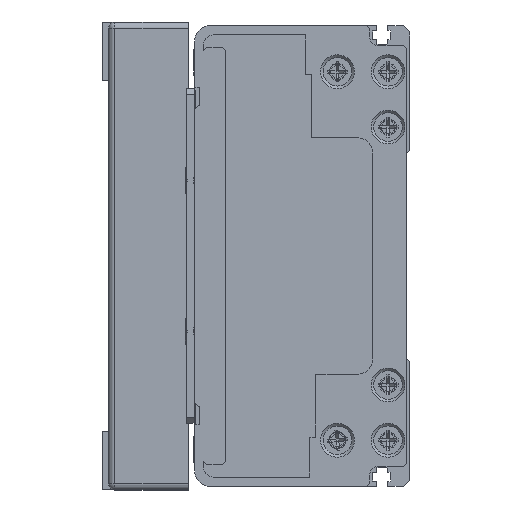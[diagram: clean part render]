
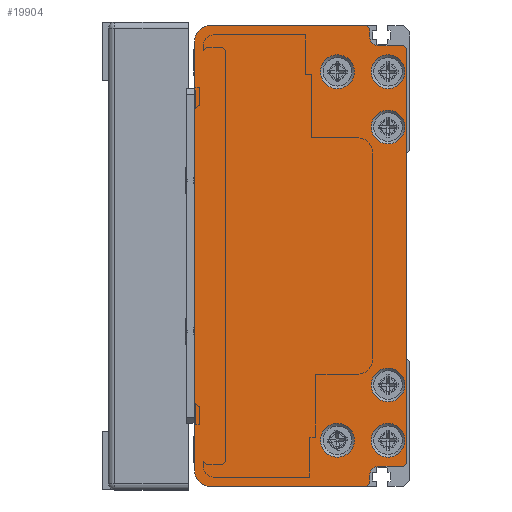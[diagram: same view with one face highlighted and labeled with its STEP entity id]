
A CAD part, left-side view. The second image highlights one B-rep face of the part: STEP entity #19904.
In plain terms, the highlighted planar face has unit normal (-1, 0, 0) as drawn and (0, 0, -1) by its records, which use the part's own axes.
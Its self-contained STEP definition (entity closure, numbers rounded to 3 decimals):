
#934=LINE('',#28802,#2599);
#935=LINE('',#28806,#2600);
#936=LINE('',#28808,#2601);
#937=LINE('',#28810,#2602);
#938=LINE('',#28814,#2603);
#939=LINE('',#28816,#2604);
#940=LINE('',#28818,#2605);
#941=LINE('',#28820,#2606);
#942=LINE('',#28822,#2607);
#943=LINE('',#28826,#2608);
#944=LINE('',#28828,#2609);
#945=LINE('',#28830,#2610);
#2599=VECTOR('',#23391,140.);
#2600=VECTOR('',#23394,51.);
#2601=VECTOR('',#23395,1.414);
#2602=VECTOR('',#23396,2.5);
#2603=VECTOR('',#23399,8.);
#2604=VECTOR('',#23400,1.414);
#2605=VECTOR('',#23401,135.);
#2606=VECTOR('',#23402,1.414);
#2607=VECTOR('',#23403,8.);
#2608=VECTOR('',#23406,2.5);
#2609=VECTOR('',#23407,1.414);
#2610=VECTOR('',#23408,51.);
#4217=PLANE('',#21278);
#4848=FACE_BOUND('',#6704,.T.);
#4849=FACE_BOUND('',#6705,.T.);
#4850=FACE_BOUND('',#6706,.T.);
#4851=FACE_BOUND('',#6707,.T.);
#4852=FACE_BOUND('',#6708,.T.);
#4853=FACE_BOUND('',#6709,.T.);
#5415=FACE_OUTER_BOUND('',#6703,.T.);
#6703=EDGE_LOOP('',(#13983,#13984,#13985,#13986,#13987,#13988,#13989,#13990,
#13991,#13992,#13993,#13994,#13995,#13996,#13997,#13998));
#6704=EDGE_LOOP('',(#13999));
#6705=EDGE_LOOP('',(#14000));
#6706=EDGE_LOOP('',(#14001));
#6707=EDGE_LOOP('',(#14002));
#6708=EDGE_LOOP('',(#14003));
#6709=EDGE_LOOP('',(#14004));
#8221=CIRCLE('',#21279,5.);
#8222=CIRCLE('',#21280,3.);
#8223=CIRCLE('',#21281,3.);
#8224=CIRCLE('',#21282,5.);
#8225=CIRCLE('',#21283,5.5);
#8226=CIRCLE('',#21284,5.5);
#8227=CIRCLE('',#21285,5.5);
#8228=CIRCLE('',#21286,5.5);
#8229=CIRCLE('',#21287,5.5);
#8230=CIRCLE('',#21288,5.5);
#8917=VERTEX_POINT('',#28800);
#8918=VERTEX_POINT('',#28801);
#8919=VERTEX_POINT('',#28803);
#8920=VERTEX_POINT('',#28805);
#8921=VERTEX_POINT('',#28807);
#8922=VERTEX_POINT('',#28809);
#8923=VERTEX_POINT('',#28811);
#8924=VERTEX_POINT('',#28813);
#8925=VERTEX_POINT('',#28815);
#8926=VERTEX_POINT('',#28817);
#8927=VERTEX_POINT('',#28819);
#8928=VERTEX_POINT('',#28821);
#8929=VERTEX_POINT('',#28823);
#8930=VERTEX_POINT('',#28825);
#8931=VERTEX_POINT('',#28827);
#8932=VERTEX_POINT('',#28829);
#8933=VERTEX_POINT('',#28832);
#8934=VERTEX_POINT('',#28834);
#8935=VERTEX_POINT('',#28836);
#8936=VERTEX_POINT('',#28838);
#8937=VERTEX_POINT('',#28840);
#8938=VERTEX_POINT('',#28842);
#10957=EDGE_CURVE('',#8917,#8918,#934,.T.);
#10958=EDGE_CURVE('',#8918,#8919,#8221,.T.);
#10959=EDGE_CURVE('',#8919,#8920,#935,.T.);
#10960=EDGE_CURVE('',#8920,#8921,#936,.T.);
#10961=EDGE_CURVE('',#8921,#8922,#937,.T.);
#10962=EDGE_CURVE('',#8922,#8923,#8222,.T.);
#10963=EDGE_CURVE('',#8923,#8924,#938,.T.);
#10964=EDGE_CURVE('',#8924,#8925,#939,.T.);
#10965=EDGE_CURVE('',#8925,#8926,#940,.T.);
#10966=EDGE_CURVE('',#8926,#8927,#941,.T.);
#10967=EDGE_CURVE('',#8927,#8928,#942,.T.);
#10968=EDGE_CURVE('',#8928,#8929,#8223,.T.);
#10969=EDGE_CURVE('',#8929,#8930,#943,.T.);
#10970=EDGE_CURVE('',#8930,#8931,#944,.T.);
#10971=EDGE_CURVE('',#8931,#8932,#945,.T.);
#10972=EDGE_CURVE('',#8932,#8917,#8224,.T.);
#10973=EDGE_CURVE('',#8933,#8933,#8225,.T.);
#10974=EDGE_CURVE('',#8934,#8934,#8226,.T.);
#10975=EDGE_CURVE('',#8935,#8935,#8227,.T.);
#10976=EDGE_CURVE('',#8936,#8936,#8228,.T.);
#10977=EDGE_CURVE('',#8937,#8937,#8229,.T.);
#10978=EDGE_CURVE('',#8938,#8938,#8230,.T.);
#13983=ORIENTED_EDGE('',*,*,#10957,.T.);
#13984=ORIENTED_EDGE('',*,*,#10958,.T.);
#13985=ORIENTED_EDGE('',*,*,#10959,.T.);
#13986=ORIENTED_EDGE('',*,*,#10960,.T.);
#13987=ORIENTED_EDGE('',*,*,#10961,.T.);
#13988=ORIENTED_EDGE('',*,*,#10962,.T.);
#13989=ORIENTED_EDGE('',*,*,#10963,.T.);
#13990=ORIENTED_EDGE('',*,*,#10964,.T.);
#13991=ORIENTED_EDGE('',*,*,#10965,.T.);
#13992=ORIENTED_EDGE('',*,*,#10966,.T.);
#13993=ORIENTED_EDGE('',*,*,#10967,.T.);
#13994=ORIENTED_EDGE('',*,*,#10968,.T.);
#13995=ORIENTED_EDGE('',*,*,#10969,.T.);
#13996=ORIENTED_EDGE('',*,*,#10970,.T.);
#13997=ORIENTED_EDGE('',*,*,#10971,.T.);
#13998=ORIENTED_EDGE('',*,*,#10972,.T.);
#13999=ORIENTED_EDGE('',*,*,#10973,.T.);
#14000=ORIENTED_EDGE('',*,*,#10974,.T.);
#14001=ORIENTED_EDGE('',*,*,#10975,.T.);
#14002=ORIENTED_EDGE('',*,*,#10976,.T.);
#14003=ORIENTED_EDGE('',*,*,#10977,.T.);
#14004=ORIENTED_EDGE('',*,*,#10978,.T.);
#19904=ADVANCED_FACE('',(#5415,#4848,#4849,#4850,#4851,#4852,#4853),#4217,
 .F.);
#21278=AXIS2_PLACEMENT_3D('',#28799,#23389,#23390);
#21279=AXIS2_PLACEMENT_3D('',#28804,#23392,#23393);
#21280=AXIS2_PLACEMENT_3D('',#28812,#23397,#23398);
#21281=AXIS2_PLACEMENT_3D('',#28824,#23404,#23405);
#21282=AXIS2_PLACEMENT_3D('',#28831,#23409,#23410);
#21283=AXIS2_PLACEMENT_3D('',#28833,#23411,#23412);
#21284=AXIS2_PLACEMENT_3D('',#28835,#23413,#23414);
#21285=AXIS2_PLACEMENT_3D('',#28837,#23415,#23416);
#21286=AXIS2_PLACEMENT_3D('',#28839,#23417,#23418);
#21287=AXIS2_PLACEMENT_3D('',#28841,#23419,#23420);
#21288=AXIS2_PLACEMENT_3D('',#28843,#23421,#23422);
#23389=DIRECTION('center_axis',(0.,0.,
1.));
#23390=DIRECTION('ref_axis',(1.,0.,0.));
#23391=DIRECTION('',(1.,0.,0.));
#23392=DIRECTION('center_axis',(0.,0.,
-1.));
#23393=DIRECTION('ref_axis',(-1.,0.,0.));
#23394=DIRECTION('',(0.,-1.,0.));
#23395=DIRECTION('',(-0.707,-0.707,0.));
#23396=DIRECTION('',(-1.,0.,0.));
#23397=DIRECTION('center_axis',(0.,0.,
1.));
#23398=DIRECTION('ref_axis',(0.,1.,0.));
#23399=DIRECTION('',(0.,-1.,0.));
#23400=DIRECTION('',(-0.707,-0.707,0.));
#23401=DIRECTION('',(-1.,0.,0.));
#23402=DIRECTION('',(-0.707,0.707,0.));
#23403=DIRECTION('',(0.,1.,0.));
#23404=DIRECTION('center_axis',(0.,0.,
1.));
#23405=DIRECTION('ref_axis',(1.,0.,0.));
#23406=DIRECTION('',(-1.,0.,0.));
#23407=DIRECTION('',(-0.707,0.707,0.));
#23408=DIRECTION('',(0.,1.,0.));
#23409=DIRECTION('center_axis',(0.,0.,
-1.));
#23410=DIRECTION('ref_axis',(0.,-1.,0.));
#23411=DIRECTION('center_axis',(0.,0.,
1.));
#23412=DIRECTION('ref_axis',(-1.,0.,0.));
#23413=DIRECTION('center_axis',(0.,0.,
1.));
#23414=DIRECTION('ref_axis',(-1.,0.,0.));
#23415=DIRECTION('center_axis',(0.,0.,
1.));
#23416=DIRECTION('ref_axis',(-1.,0.,0.));
#23417=DIRECTION('center_axis',(0.,0.,
1.));
#23418=DIRECTION('ref_axis',(-1.,0.,0.));
#23419=DIRECTION('center_axis',(0.,0.,
1.));
#23420=DIRECTION('ref_axis',(-1.,0.,0.));
#23421=DIRECTION('center_axis',(0.,0.,
1.));
#23422=DIRECTION('ref_axis',(-1.,0.,0.));
#28799=CARTESIAN_POINT('Origin',(0.25,38.047,-1419.));
#28800=CARTESIAN_POINT('',(-69.75,72.25,-1419.));
#28801=CARTESIAN_POINT('',(70.25,72.25,-1419.));
#28802=CARTESIAN_POINT('',(-69.75,72.25,-1419.));
#28803=CARTESIAN_POINT('',(75.25,67.25,-1419.));
#28804=CARTESIAN_POINT('Origin',(70.25,67.25,-1419.));
#28805=CARTESIAN_POINT('',(75.25,16.25,-1419.));
#28806=CARTESIAN_POINT('',(75.25,67.25,-1419.));
#28807=CARTESIAN_POINT('',(74.25,15.25,-1419.));
#28808=CARTESIAN_POINT('',(75.25,16.25,-1419.));
#28809=CARTESIAN_POINT('',(71.75,15.25,-1419.));
#28810=CARTESIAN_POINT('',(74.25,15.25,-1419.));
#28811=CARTESIAN_POINT('',(68.75,12.25,-1419.));
#28812=CARTESIAN_POINT('Origin',(71.75,12.25,-1419.));
#28813=CARTESIAN_POINT('',(68.75,4.25,-1419.));
#28814=CARTESIAN_POINT('',(68.75,12.25,-1419.));
#28815=CARTESIAN_POINT('',(67.75,3.25,-1419.));
#28816=CARTESIAN_POINT('',(68.75,4.25,-1419.));
#28817=CARTESIAN_POINT('',(-67.25,3.25,-1419.));
#28818=CARTESIAN_POINT('',(67.75,3.25,-1419.));
#28819=CARTESIAN_POINT('',(-68.25,4.25,-1419.));
#28820=CARTESIAN_POINT('',(-67.25,3.25,-1419.));
#28821=CARTESIAN_POINT('',(-68.25,12.25,-1419.));
#28822=CARTESIAN_POINT('',(-68.25,4.25,-1419.));
#28823=CARTESIAN_POINT('',(-71.25,15.25,-1419.));
#28824=CARTESIAN_POINT('Origin',(-71.25,12.25,-1419.));
#28825=CARTESIAN_POINT('',(-73.75,15.25,-1419.));
#28826=CARTESIAN_POINT('',(-71.25,15.25,-1419.));
#28827=CARTESIAN_POINT('',(-74.75,16.25,-1419.));
#28828=CARTESIAN_POINT('',(-73.75,15.25,-1419.));
#28829=CARTESIAN_POINT('',(-74.75,67.25,-1419.));
#28830=CARTESIAN_POINT('',(-74.75,16.25,-1419.));
#28831=CARTESIAN_POINT('Origin',(-69.75,67.25,-1419.));
#28832=CARTESIAN_POINT('',(-47.25,9.25,-1419.));
#28833=CARTESIAN_POINT('Origin',(-41.75,9.25,-1419.));
#28834=CARTESIAN_POINT('',(36.75,9.25,-1419.));
#28835=CARTESIAN_POINT('Origin',(42.25,9.25,-1419.));
#28836=CARTESIAN_POINT('',(-65.25,25.75,-1419.));
#28837=CARTESIAN_POINT('Origin',(-59.75,25.75,-1419.));
#28838=CARTESIAN_POINT('',(54.75,25.75,-1419.));
#28839=CARTESIAN_POINT('Origin',(60.25,25.75,-1419.));
#28840=CARTESIAN_POINT('',(-65.25,9.25,-1419.));
#28841=CARTESIAN_POINT('Origin',(-59.75,9.25,-1419.));
#28842=CARTESIAN_POINT('',(54.75,9.25,-1419.));
#28843=CARTESIAN_POINT('Origin',(60.25,9.25,-1419.));
